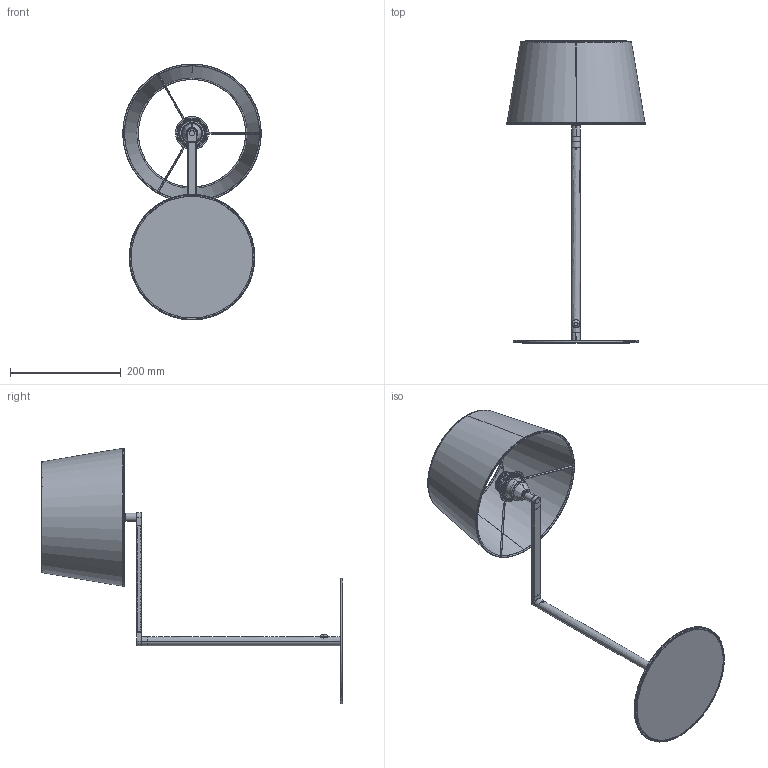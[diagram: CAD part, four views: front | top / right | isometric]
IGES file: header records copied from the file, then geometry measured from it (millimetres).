
Start section: SolidWorks IGES file using analytic representation for surfaces
Global section: file name: C:\SANTACOLE_PDM\Proyectos Catálogo\PROD-P10-021 -- AMERICANA\6_Técnico comercial\3D\Americana sobremesa\Americana.IGS; native system: SolidWorks 2019; preprocessor: SolidWorks 2019; author: aina.morell; date: 200401.182253; units: millimetre
Bounding box: 250 x 545.35 x 462.5 mm (x, y, z)
Surface area: 481754.6 mm2 (no closed solid volume)
Topology: 0 solids, 0 shells, 432 faces, 6014 edges, 6014 vertices
Faces by surface type: revolution 237, bspline 195
